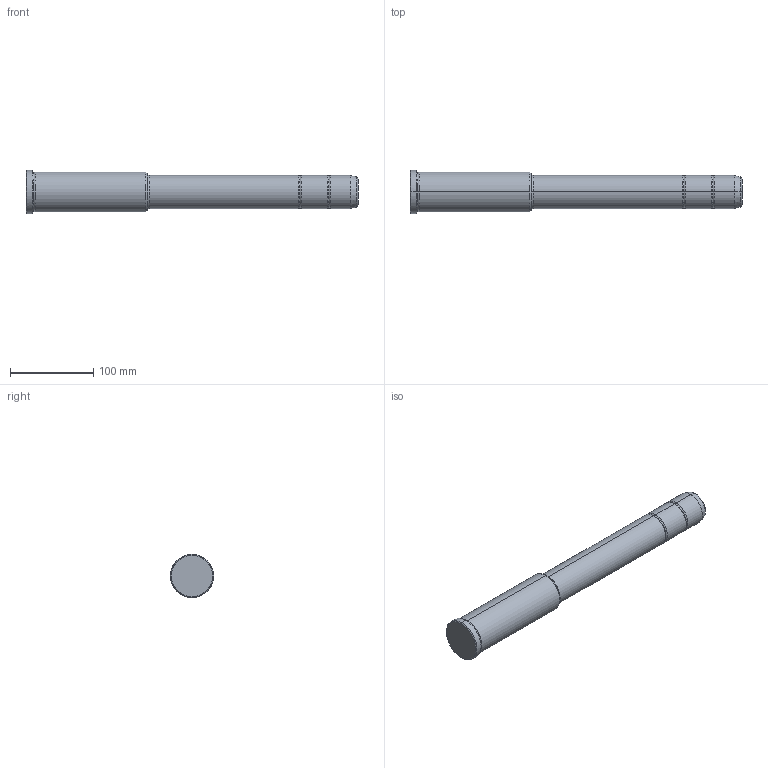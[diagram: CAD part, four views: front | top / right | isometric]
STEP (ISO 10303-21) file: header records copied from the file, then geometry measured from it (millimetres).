
FILE_DESCRIPTION(('CATIA V5 STEP Exchange'),'2;1');
FILE_NAME('C:\Users\Utente\Desktop\IO LAVORO\3D X SITO CF\X SITO\PLASTICA\351\351-40X146X400.stp','2021-11-08T19:01:08+00:00',('none'),('none'),'CATIA Version 5 Release 20 GA (IN-10)','CATIA V5 STEP AP203','none');
FILE_SCHEMA(('CONFIG_CONTROL_DESIGN'));
Length unit declared in the file: millimetre
Products named in the file (1): 351-40X146X400
Bounding box: 400 x 52 x 52 mm (x, y, z)
Volume: 583710.7 mm3; surface area: 57730.7 mm2
Topology: 1 solids, 1 shells, 36 faces, 102 edges, 70 vertices
Faces by surface type: torus 16, cylinder 10, cone 6, plane 4
Entity records: 1292 total; most frequent: CARTESIAN_POINT 321, ORIENTED_EDGE 204, DIRECTION 166, AXIS2_PLACEMENT_3D 115, EDGE_CURVE 102, CIRCLE 78, VERTEX_POINT 70, EDGE_LOOP 38
